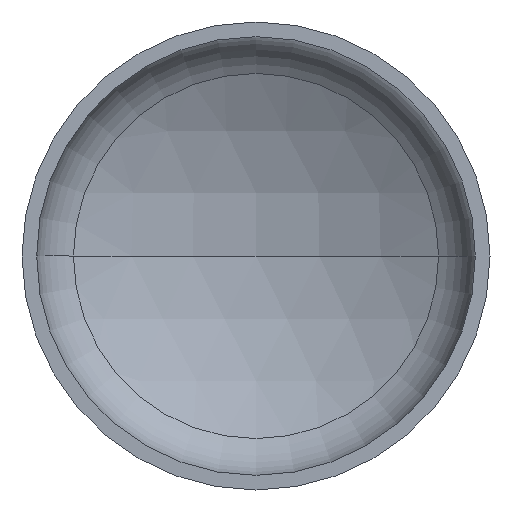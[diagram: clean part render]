
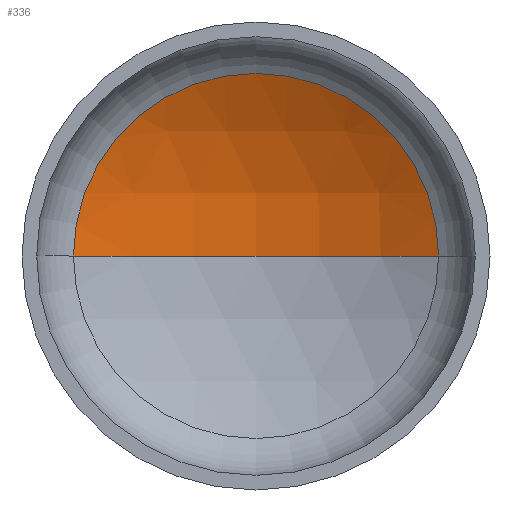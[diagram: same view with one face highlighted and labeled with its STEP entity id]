
A CAD part, front view. The second image highlights one B-rep face of the part: STEP entity #336.
In plain terms, the highlighted spherical face has radius 2400 mm.
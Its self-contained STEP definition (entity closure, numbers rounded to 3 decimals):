
#12 = DIRECTION ( 'NONE',  ( -1., 0., 0. ) ) ;
#20 = CARTESIAN_POINT ( 'NONE',  ( 0., -1593.719, 0. ) ) ;
#22 = ORIENTED_EDGE ( 'NONE', *, *, #107, .F. ) ;
#24 = VERTEX_POINT ( 'NONE', #56 ) ;
#31 = AXIS2_PLACEMENT_3D ( 'NONE', #177, #170, #89 ) ;
#34 = AXIS2_PLACEMENT_3D ( 'NONE', #20, #388, #12 ) ;
#36 = AXIS2_PLACEMENT_3D ( 'NONE', #184, #113, #106 ) ;
#56 = CARTESIAN_POINT ( 'NONE',  ( 0., 806.281, 0. ) ) ;
#62 = CARTESIAN_POINT ( 'NONE',  ( 0., -1593.719, 0. ) ) ;
#64 = EDGE_LOOP ( 'NONE', ( #22, #122, #125 ) ) ;
#80 = VERTEX_POINT ( 'NONE', #305 ) ;
#89 = DIRECTION ( 'NONE',  ( 1., 0., 0. ) ) ;
#103 = EDGE_CURVE ( 'NONE', #80, #123, #217, .T. ) ;
#104 = EDGE_CURVE ( 'NONE', #24, #80, #268, .T. ) ;
#106 = DIRECTION ( 'NONE',  ( 1., 0., 0. ) ) ;
#107 = EDGE_CURVE ( 'NONE', #24, #123, #383, .T. ) ;
#113 = DIRECTION ( 'NONE',  ( 0., -1., 0. ) ) ;
#122 = ORIENTED_EDGE ( 'NONE', *, *, #104, .T. ) ;
#123 = VERTEX_POINT ( 'NONE', #147 ) ;
#125 = ORIENTED_EDGE ( 'NONE', *, *, #103, .T. ) ;
#147 = CARTESIAN_POINT ( 'NONE',  ( -1170.309, 501.603, 0. ) ) ;
#170 = DIRECTION ( 'NONE',  ( 0., 0., 1. ) ) ;
#177 = CARTESIAN_POINT ( 'NONE',  ( 0., -1593.719, 0. ) ) ;
#184 = CARTESIAN_POINT ( 'NONE',  ( 0., 501.603, 0. ) ) ;
#217 = CIRCLE ( 'NONE', #36, 1170.309 ) ;
#268 = CIRCLE ( 'NONE', #34, 2400. ) ;
#286 = DIRECTION ( 'NONE',  ( 0., 0., -1. ) ) ;
#295 = SPHERICAL_SURFACE ( 'NONE', #357, 2400. ) ;
#298 = FACE_OUTER_BOUND ( 'NONE', #64, .T. ) ;
#305 = CARTESIAN_POINT ( 'NONE',  ( 1170.309, 501.603, 0. ) ) ;
#311 = DIRECTION ( 'NONE',  ( -1., 0., 0. ) ) ;
#336 = ADVANCED_FACE ( 'NONE', ( #298 ), #295, .F. ) ;
#357 = AXIS2_PLACEMENT_3D ( 'NONE', #62, #286, #311 ) ;
#383 = CIRCLE ( 'NONE', #31, 2400. ) ;
#388 = DIRECTION ( 'NONE',  ( 0., 0., -1. ) ) ;
